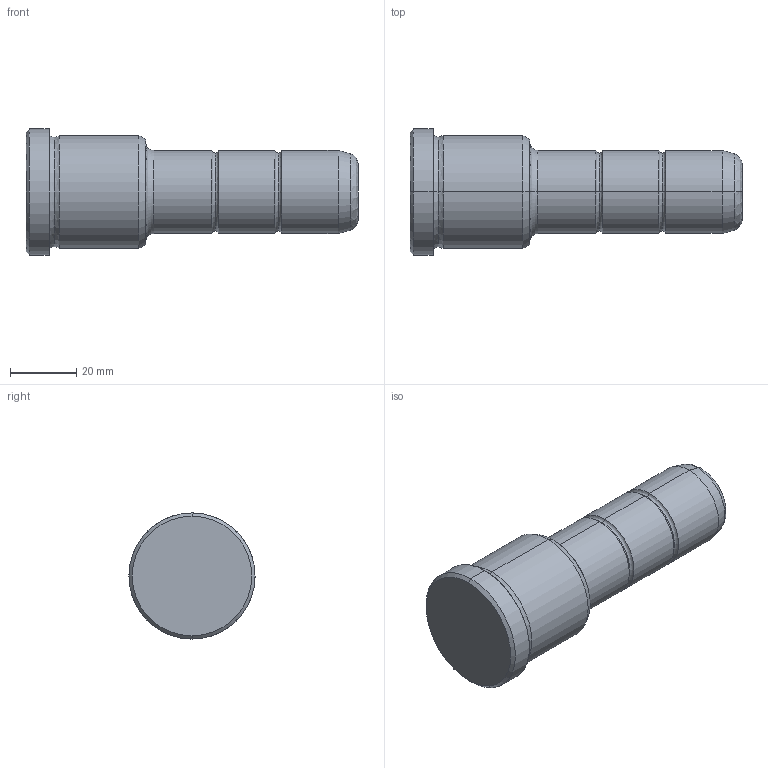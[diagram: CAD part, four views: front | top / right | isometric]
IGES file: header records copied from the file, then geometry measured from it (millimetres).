
Start section: START RECORD GO HERE.
Global section: file name: 351-25X36X100.igs; native system: DASSAULT SYSTEMES CATIA V5 R20 - www.3ds.com; preprocessor: CATIA Version 5 Release 20 ; author: Utente; organization: NB04-ASUS; date: 20210828.112000; units: millimetre
Bounding box: 100 x 38 x 38 mm (x, y, z)
Surface area: 10918.1 mm2 (no closed solid volume)
Topology: 0 solids, 0 shells, 36 faces, 204 edges, 204 vertices
Faces by surface type: revolution 32, plane 4
